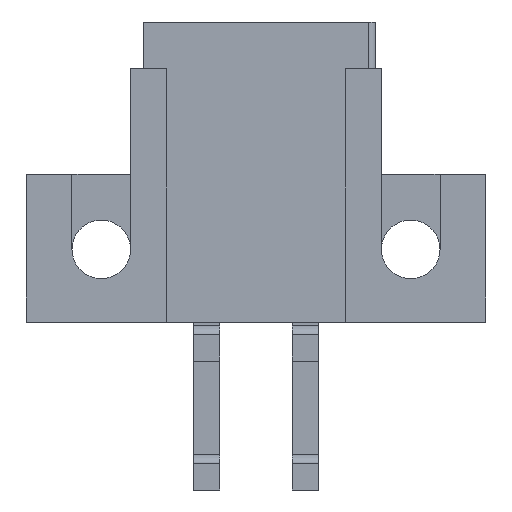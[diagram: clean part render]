
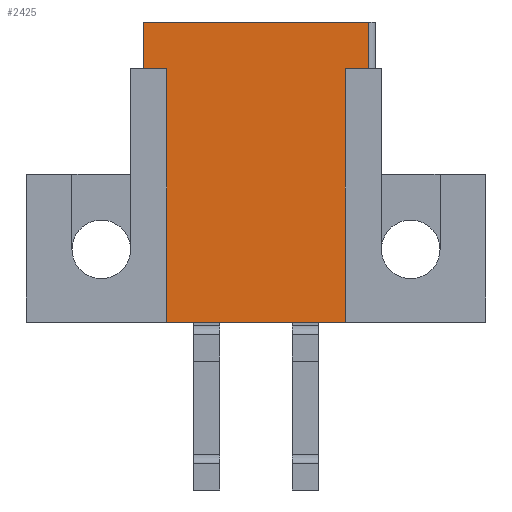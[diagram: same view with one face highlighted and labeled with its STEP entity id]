
A CAD part, front view. The second image highlights one B-rep face of the part: STEP entity #2425.
In plain terms, the highlighted planar face has unit normal (0, -1, 0).
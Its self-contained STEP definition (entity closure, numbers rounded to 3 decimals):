
#85=DIRECTION('',(1.,0.,0.));
#86=VECTOR('',#85,9.6);
#87=CARTESIAN_POINT('',(-4.8,-4.9,0.));
#88=LINE('',#87,#86);
#177=DIRECTION('',(0.,0.,-1.));
#178=VECTOR('',#177,2.);
#179=CARTESIAN_POINT('',(4.8,-4.9,0.));
#180=LINE('',#179,#178);
#470=DIRECTION('',(1.,0.,0.));
#471=VECTOR('',#470,7.6);
#472=CARTESIAN_POINT('',(-3.8,-4.9,-12.8));
#473=LINE('',#472,#471);
#574=DIRECTION('',(0.,0.,1.));
#575=VECTOR('',#574,10.8);
#576=CARTESIAN_POINT('',(3.8,-4.9,-12.8));
#577=LINE('',#576,#575);
#578=DIRECTION('',(0.,0.,1.));
#579=VECTOR('',#578,10.8);
#580=CARTESIAN_POINT('',(-3.8,-4.9,-12.8));
#581=LINE('',#580,#579);
#582=DIRECTION('',(1.,0.,0.));
#583=VECTOR('',#582,1.);
#584=CARTESIAN_POINT('',(-4.8,-4.9,-2.));
#585=LINE('',#584,#583);
#586=DIRECTION('',(0.,0.,-1.));
#587=VECTOR('',#586,2.);
#588=CARTESIAN_POINT('',(-4.8,-4.9,0.));
#589=LINE('',#588,#587);
#590=DIRECTION('',(-1.,0.,0.));
#591=VECTOR('',#590,1.);
#592=CARTESIAN_POINT('',(4.8,-4.9,-2.));
#593=LINE('',#592,#591);
#1415=CARTESIAN_POINT('',(-4.8,-4.9,0.));
#1417=VERTEX_POINT('',#1415);
#1418=CARTESIAN_POINT('',(4.8,-4.9,0.));
#1419=VERTEX_POINT('',#1418);
#1482=CARTESIAN_POINT('',(3.8,-4.9,-12.8));
#1483=VERTEX_POINT('',#1482);
#1484=CARTESIAN_POINT('',(3.8,-4.9,-2.));
#1485=VERTEX_POINT('',#1484);
#1486=CARTESIAN_POINT('',(-3.8,-4.9,-12.8));
#1487=VERTEX_POINT('',#1486);
#1488=CARTESIAN_POINT('',(-3.8,-4.9,-2.));
#1489=VERTEX_POINT('',#1488);
#1778=CARTESIAN_POINT('',(4.8,-4.9,-2.));
#1779=VERTEX_POINT('',#1778);
#1780=CARTESIAN_POINT('',(-4.8,-4.9,-2.));
#1781=VERTEX_POINT('',#1780);
#2407=CARTESIAN_POINT('',(-4.8,-4.9,0.));
#2408=DIRECTION('',(0.,-1.,0.));
#2409=DIRECTION('',(1.,0.,0.));
#2410=AXIS2_PLACEMENT_3D('',#2407,#2408,#2409);
#2411=PLANE('',#2410);
#2413=ORIENTED_EDGE('',*,*,#2412,.F.);
#2414=ORIENTED_EDGE('',*,*,#2304,.F.);
#2416=ORIENTED_EDGE('',*,*,#2415,.T.);
#2417=ORIENTED_EDGE('',*,*,#2386,.F.);
#2418=ORIENTED_EDGE('',*,*,#2373,.F.);
#2419=ORIENTED_EDGE('',*,*,#1857,.T.);
#2420=ORIENTED_EDGE('',*,*,#1931,.T.);
#2422=ORIENTED_EDGE('',*,*,#2421,.T.);
#2423=EDGE_LOOP('',(#2413,#2414,#2416,#2417,#2418,#2419,#2420,#2422));
#2424=FACE_OUTER_BOUND('',#2423,.F.);
#2425=ADVANCED_FACE('',(#2424),#2411,.T.);
#1857=EDGE_CURVE('',#1417,#1419,#88,.T.);
#1931=EDGE_CURVE('',#1419,#1779,#180,.T.);
#2304=EDGE_CURVE('',#1487,#1483,#473,.T.);
#2373=EDGE_CURVE('',#1417,#1781,#589,.T.);
#2386=EDGE_CURVE('',#1781,#1489,#585,.T.);
#2412=EDGE_CURVE('',#1483,#1485,#577,.T.);
#2415=EDGE_CURVE('',#1487,#1489,#581,.T.);
#2421=EDGE_CURVE('',#1779,#1485,#593,.T.);
